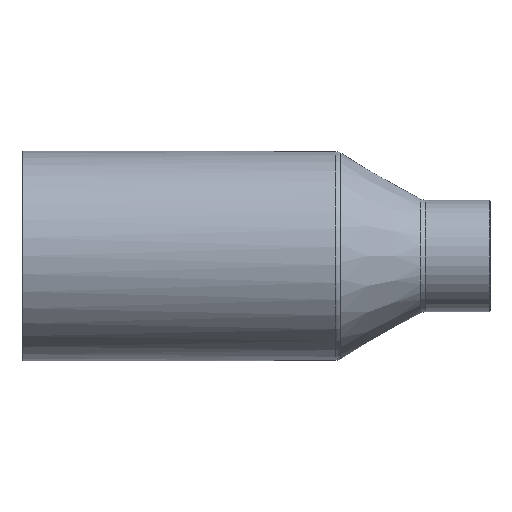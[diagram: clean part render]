
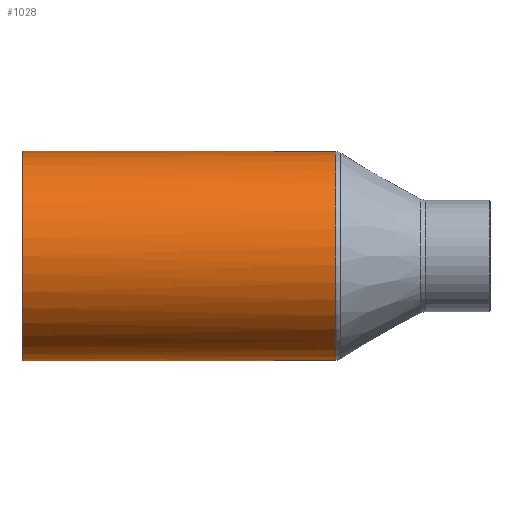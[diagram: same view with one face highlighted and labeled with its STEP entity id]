
A CAD part, front view. The second image highlights one B-rep face of the part: STEP entity #1028.
In plain terms, the highlighted cylindrical face has radius 23.45 mm (diameter 46.9 mm), a full revolution.
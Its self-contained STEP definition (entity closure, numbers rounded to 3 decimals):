
#297=CARTESIAN_POINT('',(22.845,18.83,-13.976));
#298=VERTEX_POINT('',#297);
#400=CARTESIAN_POINT('',(22.845,18.83,13.976));
#401=VERTEX_POINT('',#400);
#446=CARTESIAN_POINT('',(22.845,0.0,0.0));
#447=DIRECTION('',(1.0,0.0,0.0));
#448=DIRECTION('',(0.0,1.0,0.0));
#449=AXIS2_PLACEMENT_3D('',#446,#447,#448);
#450=CIRCLE('',#449,23.45);
#451=EDGE_CURVE('',#401,#298,#450,.T.);
#717=CARTESIAN_POINT('',(0.,0.0,-23.45));
#718=VERTEX_POINT('',#717);
#719=CARTESIAN_POINT('',(0.0,0.0,0.0));
#720=DIRECTION('',(-0.636,0.772,0.0));
#721=DIRECTION('',(0.772,0.636,0.0));
#722=AXIS2_PLACEMENT_3D('',#719,#720,#721);
#723=ELLIPSE('',#722,36.869,23.45);
#724=EDGE_CURVE('',#298,#718,#723,.T.);
#726=CARTESIAN_POINT('',(0.,0.0,23.45));
#727=VERTEX_POINT('',#726);
#735=CARTESIAN_POINT('',(0.0,0.0,0.0));
#736=DIRECTION('',(-0.636,0.772,0.0));
#737=DIRECTION('',(0.772,0.636,0.0));
#738=AXIS2_PLACEMENT_3D('',#735,#736,#737);
#739=ELLIPSE('',#738,36.869,23.45);
#740=EDGE_CURVE('',#727,#401,#739,.T.);
#976=CARTESIAN_POINT('',(-47.3,23.45,0.));
#977=VERTEX_POINT('',#976);
#978=CARTESIAN_POINT('',(-47.3,0.0,0.0));
#979=DIRECTION('',(-1.0,0.0,0.0));
#980=DIRECTION('',(0.0,-1.0,0.0));
#981=AXIS2_PLACEMENT_3D('',#978,#979,#980);
#982=CIRCLE('',#981,23.45);
#983=EDGE_CURVE('',#977,#977,#982,.T.);
#1008=CARTESIAN_POINT('',(4.95,0.0,0.0));
#1009=DIRECTION('',(1.0,0.0,0.0));
#1010=DIRECTION('',(0.0,1.0,0.0));
#1011=AXIS2_PLACEMENT_3D('',#1008,#1009,#1010);
#1012=CYLINDRICAL_SURFACE('',#1011,23.45);
#1013=ORIENTED_EDGE('',*,*,#451,.F.);
#1014=ORIENTED_EDGE('',*,*,#740,.F.);
#1015=CARTESIAN_POINT('',(0.0,0.0,0.0));
#1016=DIRECTION('',(0.636,0.772,0.0));
#1017=DIRECTION('',(-0.772,0.636,0.0));
#1018=AXIS2_PLACEMENT_3D('',#1015,#1016,#1017);
#1019=ELLIPSE('',#1018,36.869,23.45);
#1020=EDGE_CURVE('',#718,#727,#1019,.T.);
#1021=ORIENTED_EDGE('',*,*,#1020,.F.);
#1022=ORIENTED_EDGE('',*,*,#724,.F.);
#1023=EDGE_LOOP('',(#1013,#1014,#1021,#1022));
#1024=FACE_OUTER_BOUND('',#1023,.T.);
#1025=ORIENTED_EDGE('',*,*,#983,.F.);
#1026=EDGE_LOOP('',(#1025));
#1027=FACE_BOUND('',#1026,.T.);
#1028=ADVANCED_FACE('',(#1024,#1027),#1012,.T.);
